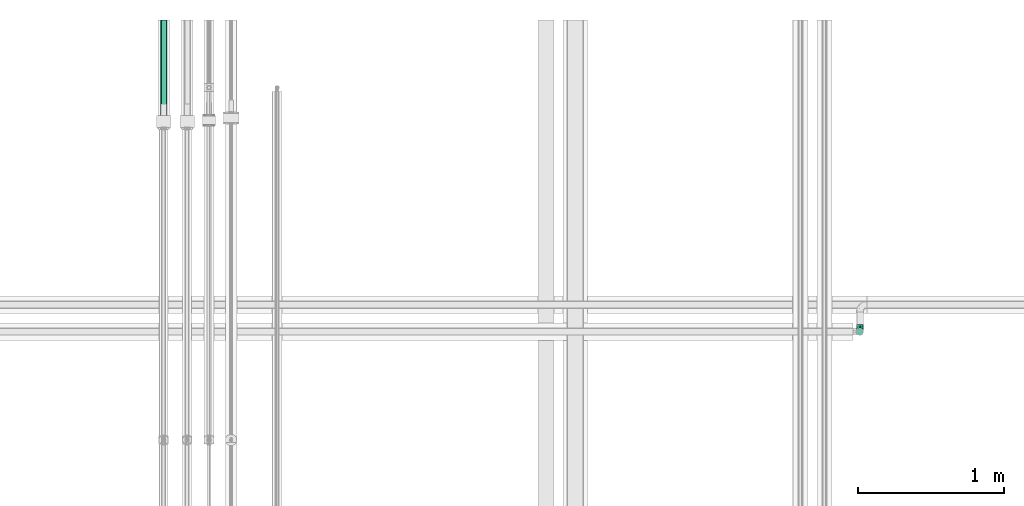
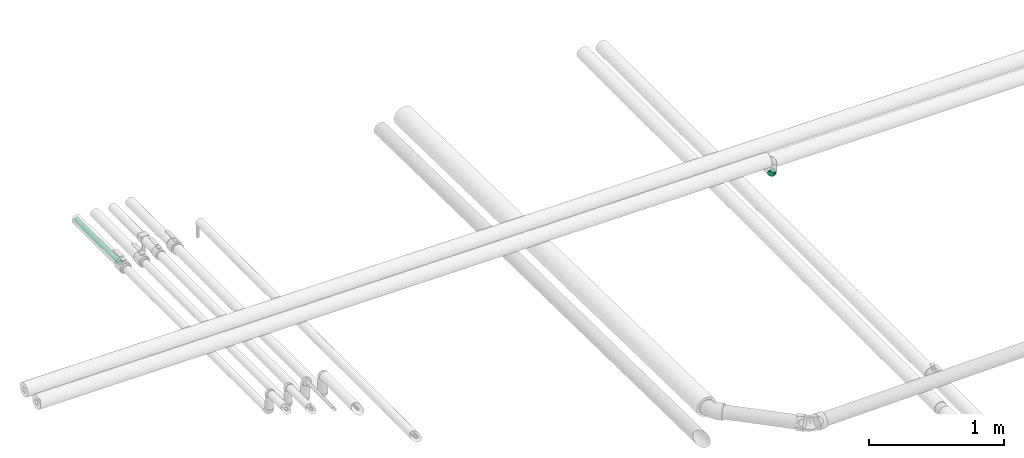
# One storey, part 73 of 83: 1 flow fitting, 1 flow segment.
"""IFC2X3 building model written with IfcOpenShell, lengths in millimetres."""

from ifc_helpers import new_model, entity, si_unit, converted_unit, derived_unit, direction, frame, origin_with_axes, place, context, subcontext, project, spatial, open_shell, faceted_brep, surface_model, source, transform, mapped, type_object, element, save


model = new_model("IFC2X3")

# Units and contexts
model_context = context("Model", 3, precision=0.01, world=frame((0.0, 4.29681676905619e-09, 0.0)), true_north=direction((4.01073788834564e-13, 1.0)))
plan_context = context("Plan", 3, precision=0.01, world=frame((0.0, 4.29681676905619e-09, 0.0)), true_north=direction((4.01073788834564e-13, 1.0)))
body_context = subcontext(model_context, "Body", "Model", "MODEL_VIEW")
ifc_project = project(units=[converted_unit("PLANEANGLEUNIT", "DEGREE", entity("IfcPositiveLengthMeasure", 0.0174532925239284), si_unit("PLANEANGLEUNIT", "RADIAN"), dimensions=[0, 0, 0, 0, 0, 0, 0]), si_unit("AREAUNIT", "SQUARE_METRE"), si_unit("LENGTHUNIT", "METRE", prefix="MILLI"), si_unit("MASSUNIT", "GRAM", prefix="KILO"), si_unit("POWERUNIT", "WATT"), si_unit("PRESSUREUNIT", "PASCAL"), si_unit("FORCEUNIT", "NEWTON", prefix="KILO"), si_unit("ELECTRICVOLTAGEUNIT", "VOLT"), si_unit("ELECTRICCURRENTUNIT", "AMPERE"), si_unit("THERMODYNAMICTEMPERATUREUNIT", "DEGREE_CELSIUS"), si_unit("TIMEUNIT", "SECOND"), si_unit("VOLUMEUNIT", "CUBIC_METRE"), derived_unit("LINEARVELOCITYUNIT", [(si_unit("LENGTHUNIT", "METRE"), 1), (si_unit("TIMEUNIT", "SECOND"), -1)]), derived_unit("VOLUMETRICFLOWRATEUNIT", [(si_unit("VOLUMEUNIT", "CUBIC_METRE"), 1), (si_unit("TIMEUNIT", "SECOND"), -1)]), derived_unit("THERMALTRANSMITTANCEUNIT", [(si_unit("POWERUNIT", "WATT"), 1), (si_unit("THERMODYNAMICTEMPERATUREUNIT", "KELVIN"), -1), (si_unit("AREAUNIT", "SQUARE_METRE"), -1)]), derived_unit("SOUNDPRESSUREUNIT", [(si_unit("PRESSUREUNIT", "PASCAL"), 1)])], contexts=[model_context, plan_context])

# Site, building, storey
site_placement = place(None, frame((0.0, -4.29681676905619e-09, 0.0), z_axis=(0.0, 0.0, 1.0), x_axis=(1.0, 0.0, 0.0)))
site = spatial("IfcSite", under=ifc_project, at=site_placement, Name="ENGM", CompositionType="ELEMENT")
building_placement = place(site_placement, frame((0.0, 4.29681676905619e-09, 0.0), z_axis=(0.0, 0.0, 1.0), x_axis=(1.0, 0.0, 0.0)))
building = spatial("IfcBuilding", under=site, at=building_placement, Name="TI", CompositionType="ELEMENT")
storey_placement = place(building_placement, frame((0.0, 0.0, 204000.0), z_axis=(0.0, 0.0, 1.0), x_axis=(1.0, 0.0, 0.0)))
storey = spatial("IfcBuildingStorey", under=building, at=storey_placement, Name="Nivå D", CompositionType="ELEMENT", Elevation=204000.0)

# Flow fitting
pipe_fitting_type = type_object("IfcPipeFittingType", Name="magi_pipe_fe_elbow_short_001", PredefinedType="BEND")
shared_shape = source(origin_with_axes(), body_context, "Body", "SurfaceModel", [
    surface_model("IfcShellBasedSurfaceModel", [(-48.3864, 6.26342, -23.37541), (-48.3864, 0.0, -24.2), (-48.3864, 17.11198, -17.11198), (-48.3864, 12.1, -20.95781), (-48.3864, 20.95781, -12.1), (-48.3864, 24.2, 0.0), (-48.3864, -12.1, -20.95781), (-48.3864, -23.37541, -6.26342), (-48.3864, 12.1, 20.95781), (-48.3864, -17.11198, -17.11198), (-48.3864, -20.95781, -12.1), (-48.3864, -6.26342, -23.37541), (-48.3864, -24.2, 0.0), (-48.3864, -23.37541, 6.26342), (-48.3864, 23.37541, -6.26342), (-48.3864, 23.37541, 6.26342), (-48.3864, 20.95781, 12.1), (-48.3864, 6.26342, 23.37541), (-48.3864, 17.11198, 17.11198), (-48.3864, -12.1, 20.95781), (-48.3864, -20.95781, 12.1), (-48.3864, -17.11198, 17.11198), (-48.3864, -6.26342, 23.37541), (-48.3864, 0.0, 24.2), (-17.09838, 48.39121, -17.11198), (0.0136, 48.38639, -24.2), (-6.24982, 48.38815, -23.37541), (-12.0864, 48.38979, -20.95781), (-20.94421, 48.39229, -12.1), (-23.3618, 48.39296, -6.26342), (23.38901, 48.37982, -6.26342), (-6.24982, 48.38815, 23.37541), (12.1136, 48.38299, -20.95781), (17.12559, 48.38158, -17.11198), (6.27703, 48.38463, -23.37541), (20.97142, 48.3805, -12.1), (23.38901, 48.37982, 6.26342), (24.2136, 48.37959, 0.0), (-23.3618, 48.39296, 6.26342), (-17.09838, 48.39121, 17.11198), (-20.94421, 48.39229, 12.1), (-12.0864, 48.38979, 20.95781), (6.27703, 48.38463, 23.37541), (17.12559, 48.38158, 17.11198), (20.97142, 48.3805, 12.1), (12.1136, 48.38299, 20.95781), (0.0136, 48.38639, 24.2), (-24.18639, 48.39319, 0.0), (-35.48931, -18.80053, 13.58535), (-31.76512, -13.9615, 18.03295), (-34.49734, -21.4378, 0.0), (-21.37755, -15.41076, 12.21441), (-32.14898, -21.12185, 7.54772), (21.13089, 32.14304, 7.54772), (17.08095, 18.93766, 6.2035), (18.6814, 20.60304, 0.0), (-23.64482, 38.6178, 10.51794), (-20.20526, 37.66957, 15.89832), (-35.55632, -9.15088, 21.77266), (-36.95858, -3.20588, 23.78621), (-33.87598, 3.70948, 24.15872), (-8.83298, -10.80939, 0.0), (-18.94247, -17.07562, 6.2035), (-20.60829, -18.67561, 0.0), (-18.68797, -5.87505, 20.10535), (-24.08392, -0.21822, 23.45617), (-2.07019, -4.08903, 10.90829), (-0.40152, 0.49367, 14.45935), (-8.21836, -5.79706, 14.91218), (-37.81785, 20.17351, 15.88138), (-8.40375, 23.79209, 24.15643), (-17.91699, 17.92203, 23.61167), (-14.4036, 10.57203, 24.0756), (-41.85789, 14.65503, 19.71848), (-9.02172, 41.73423, 22.66749), (-3.30661, 36.18823, 24.14053), (-38.62319, 23.65176, 10.51632), (-38.25149, 25.77422, 5.31987), (-30.03656, 30.04501, 9.04584), (-37.29138, 9.49127, 22.86027), (-6.30981, 16.19948, 23.76186), (-12.01521, 4.43891, 22.5988), (-2.46302, 13.06901, 22.23953), (-4.31651, 4.31772, 19.78666), (13.97043, 31.76119, 18.03295), (15.41676, 21.37322, 12.21441), (18.81051, 35.48402, 13.58535), (-25.71923, 16.41719, 22.38334), (-26.58239, 10.3644, 23.76688), (3.21627, 36.95768, 23.78621), (9.16088, 35.55374, 21.77266), (5.8803, 18.68631, 20.10535), (21.4475, 34.49131, 0.0), (-23.73775, 5.92943, 24.18973), (-22.39538, 25.54978, 19.8847), (-33.31478, 16.42636, 20.37842), (-25.46237, 39.0342, 5.19172), (-30.32016, 31.73653, 4.2585), (11.05132, 19.58501, 16.55211), (-27.43085, 36.29607, 0.0), (-10.45626, 32.7842, 23.04689), (-13.80177, 25.0461, 23.26303), (-17.53579, 31.27121, 20.3392), (-19.27198, 23.42382, 22.01886), (-14.77312, 40.57073, 19.81898), (-19.58811, -11.04581, 16.55211), (-25.08565, 32.07607, 13.6979), (-25.50111, 27.02126, 17.14143), (-31.06957, 26.00254, 13.49357), (0.22499, 24.08386, 23.45617), (5.51823, 8.39396, 15.3263), (-11.47276, -10.80193, 11.36116), (1.44439, -3.14564, 6.55896), (7.36233, 4.30632, 8.44507), (7.49638, 2.48458, 3.62856), (12.47059, 10.07541, 5.70046), (12.17179, 12.55163, 10.13976), (-36.28836, 27.44105, 0.0), (-6.50662, -9.62078, 7.02985), (2.94234, -2.94317, 0.0), (10.81187, 8.82994, 0.0), (-19.58811, -11.04581, -16.55211), (-31.76512, -13.9615, -18.03295), (-18.68797, -5.87505, -20.10535), (-21.37755, -15.41076, -12.21441), (-37.66389, 20.21585, -15.89832), (-40.56658, 14.78453, -19.81898), (-39.02704, 25.47335, -5.19172), (-32.14898, -21.12185, -7.54772), (-30.03657, 30.04501, -9.04584), (-38.61115, 23.65568, -10.51793), (-18.94247, -17.07562, -6.2035), (-23.4184, 19.27857, -22.01886), (-25.04222, 13.80881, -23.26303), (-31.26628, 17.54458, -20.3392), (-14.64326, 41.862, -19.71848), (-20.16287, 37.82352, -15.88138), (9.16088, 35.55374, -21.77266), (5.8803, 18.68631, -20.10535), (0.22499, 24.08386, -23.45617), (-41.73169, 9.03346, -22.66749), (-35.48931, -18.80053, -13.58535), (-35.55632, -9.15088, -21.77266), (-16.40996, 25.72385, -22.38335), (-9.48078, 37.29405, -22.86027), (-10.35692, 26.5853, -23.76688), (-36.95858, -3.20588, -23.78621), (-23.78973, 8.41044, -24.15643), (-17.91699, 17.92203, -23.61167), (-10.56798, 14.40657, -24.0756), (-36.1873, 3.31679, -24.14053), (-25.76347, 38.25874, -5.31987), (-23.6409, 38.62984, -10.51632), (-32.78126, 10.46547, -23.04689), (-31.728, 30.32908, -4.2585), (-5.92275, 23.73941, -24.18973), (-25.54349, 22.40257, -19.8847), (-16.41699, 33.3194, -20.37843), (3.21627, 36.95768, -23.78621), (-3.69996, 33.87702, -24.15872), (18.81051, 35.48402, -13.58535), (13.97043, 31.76119, -18.03295), (7.49639, 2.48458, -3.62856), (12.47059, 10.07541, -5.70046), (-16.1977, 6.31437, -23.76186), (-4.43553, 12.01646, -22.5988), (-13.06831, 2.4667, -22.23953), (1.44439, -3.14564, -6.55896), (-6.50662, -9.62078, -7.02985), (-2.07019, -4.08904, -10.90829), (15.41677, 21.37322, -12.21441), (21.13089, 32.14304, -7.54772), (17.08095, 18.93766, -6.2035), (-32.06902, 25.09466, -13.6979), (11.05132, 19.58501, -16.55211), (12.17179, 12.55163, -10.13976), (5.51823, 8.39396, -15.3263), (-27.01409, 25.50871, -17.14143), (-25.9938, 31.07688, -13.49357), (-24.08392, -0.21822, -23.45617), (-4.31651, 4.31772, -19.78665), (-8.21836, -5.79706, -14.91218), (-11.47276, -10.80193, -11.36116), (-0.40152, 0.49367, -14.45935), (7.36233, 4.30632, -8.44507)], [open_shell([[[0, 1, 2]], [[3, 0, 2]], [[4, 2, 5]], [[6, 2, 1]], [[2, 7, 8]], [[9, 10, 6]], [[1, 11, 6]], [[10, 7, 6]], [[6, 7, 2]], [[12, 13, 7]], [[4, 5, 14]], [[8, 15, 2]], [[16, 15, 8]], [[8, 7, 17]], [[18, 16, 8]], [[7, 19, 17]], [[20, 21, 13]], [[21, 7, 13]], [[22, 23, 19]], [[21, 19, 7]], [[19, 23, 17]], [[15, 5, 2]], [[24, 25, 26]], [[24, 26, 27]], [[24, 28, 29]], [[25, 24, 30]], [[31, 30, 24]], [[32, 30, 33]], [[30, 32, 34]], [[33, 30, 35]], [[34, 25, 30]], [[30, 36, 37]], [[38, 24, 29]], [[24, 38, 31]], [[39, 38, 40]], [[41, 31, 38]], [[41, 38, 39]], [[42, 30, 31]], [[36, 43, 44]], [[36, 30, 43]], [[43, 30, 45]], [[42, 45, 30]], [[31, 46, 42]], [[38, 29, 47]], [[21, 48, 49]], [[13, 12, 50]], [[51, 48, 52]], [[53, 54, 55]], [[48, 21, 20]], [[13, 52, 20]], [[40, 56, 57]], [[49, 19, 21]], [[49, 58, 19]], [[23, 59, 60]], [[61, 62, 63]], [[58, 64, 65]], [[66, 67, 68]], [[16, 18, 69]], [[70, 71, 72]], [[8, 73, 18]], [[22, 59, 23]], [[31, 74, 75]], [[23, 60, 17]], [[16, 69, 76]], [[18, 73, 69]], [[5, 15, 77]], [[15, 16, 76]], [[77, 76, 78]], [[17, 79, 8]], [[80, 81, 82]], [[68, 83, 64]], [[84, 43, 45]], [[85, 86, 84]], [[87, 79, 88]], [[19, 58, 22]], [[46, 89, 42]], [[53, 36, 44]], [[46, 31, 75]], [[84, 90, 91]], [[44, 86, 53]], [[92, 36, 53]], [[86, 44, 43]], [[90, 45, 42]], [[53, 55, 92]], [[88, 93, 72]], [[54, 53, 85]], [[87, 94, 95]], [[78, 96, 97]], [[98, 84, 91]], [[99, 96, 47]], [[79, 17, 60]], [[96, 78, 56]], [[62, 52, 63]], [[57, 39, 40]], [[100, 70, 75]], [[101, 102, 103]], [[13, 50, 52]], [[104, 41, 39]], [[74, 31, 41]], [[57, 102, 104]], [[105, 64, 49]], [[90, 84, 45]], [[40, 38, 56]], [[56, 106, 57]], [[102, 57, 107]], [[95, 107, 69]], [[76, 108, 78]], [[100, 101, 70]], [[89, 75, 109]], [[64, 58, 49]], [[63, 52, 50]], [[59, 58, 65]], [[105, 49, 51]], [[64, 83, 81]], [[89, 90, 42]], [[37, 36, 92]], [[109, 82, 91]], [[109, 91, 90]], [[91, 83, 110]], [[111, 68, 105]], [[66, 68, 111]], [[62, 51, 52]], [[66, 112, 113]], [[114, 115, 113]], [[98, 85, 84]], [[52, 48, 20]], [[49, 48, 51]], [[84, 86, 43]], [[53, 86, 85]], [[88, 79, 60]], [[73, 79, 95]], [[96, 56, 38]], [[78, 108, 106]], [[87, 103, 94]], [[100, 74, 104]], [[108, 69, 107]], [[78, 97, 77]], [[88, 72, 71]], [[109, 75, 70]], [[81, 72, 65]], [[70, 72, 80]], [[75, 89, 46]], [[90, 89, 109]], [[58, 59, 22]], [[60, 59, 65]], [[67, 83, 68]], [[110, 113, 116]], [[88, 60, 93]], [[87, 88, 71]], [[103, 87, 71]], [[79, 87, 95]], [[101, 103, 71]], [[94, 103, 102]], [[47, 96, 38]], [[96, 99, 97]], [[99, 117, 97]], [[97, 117, 77]], [[5, 77, 117]], [[15, 76, 77]], [[60, 65, 93]], [[65, 72, 93]], [[70, 101, 71]], [[102, 101, 100]], [[69, 108, 76]], [[106, 108, 107]], [[57, 106, 107]], [[78, 106, 56]], [[57, 104, 39]], [[100, 104, 102]], [[102, 107, 94]], [[95, 94, 107]], [[64, 81, 65]], [[82, 81, 83]], [[91, 82, 83]], [[80, 82, 109]], [[70, 80, 109]], [[81, 80, 72]], [[79, 73, 8]], [[69, 73, 95]], [[104, 74, 41]], [[75, 74, 100]], [[62, 61, 118]], [[111, 62, 118]], [[113, 115, 116]], [[119, 118, 61]], [[111, 105, 51]], [[113, 112, 114]], [[120, 55, 54]], [[68, 64, 105]], [[91, 110, 98]], [[116, 98, 110]], [[62, 111, 51]], [[66, 111, 118]], [[112, 66, 118]], [[67, 113, 110]], [[118, 119, 112]], [[114, 112, 119]], [[119, 120, 114]], [[115, 120, 54]], [[120, 115, 114]], [[116, 54, 85]], [[54, 116, 115]], [[116, 85, 98]], [[113, 67, 66]], [[83, 67, 110]], [[121, 122, 123]], [[122, 121, 124]], [[4, 125, 2]], [[2, 126, 3]], [[117, 127, 5]], [[50, 7, 128]], [[127, 129, 130]], [[128, 131, 63]], [[132, 133, 134]], [[24, 135, 136]], [[137, 138, 139]], [[3, 140, 0]], [[128, 10, 141]], [[142, 6, 11]], [[128, 63, 50]], [[4, 14, 130]], [[10, 9, 141]], [[143, 144, 145]], [[146, 11, 1]], [[147, 148, 149]], [[10, 128, 7]], [[124, 141, 122]], [[150, 1, 0]], [[151, 152, 129]], [[125, 134, 126]], [[153, 147, 150]], [[127, 154, 129]], [[145, 155, 149]], [[47, 29, 151]], [[143, 156, 157]], [[152, 29, 28]], [[25, 158, 159]], [[122, 9, 6]], [[24, 27, 135]], [[144, 27, 26]], [[33, 160, 161]], [[25, 34, 158]], [[120, 162, 163]], [[130, 125, 4]], [[24, 136, 28]], [[0, 140, 150]], [[32, 161, 137]], [[142, 122, 6]], [[25, 159, 26]], [[164, 165, 166]], [[167, 168, 169]], [[35, 160, 33]], [[161, 32, 33]], [[170, 160, 171]], [[131, 128, 124]], [[37, 92, 30]], [[30, 92, 171]], [[172, 171, 55]], [[30, 171, 35]], [[144, 26, 159]], [[130, 173, 125]], [[174, 175, 176]], [[136, 152, 28]], [[32, 137, 34]], [[122, 142, 123]], [[134, 125, 177]], [[157, 177, 136]], [[152, 178, 129]], [[153, 133, 147]], [[146, 150, 179]], [[146, 142, 11]], [[12, 7, 50]], [[179, 166, 123]], [[179, 123, 142]], [[123, 180, 181]], [[138, 137, 161]], [[55, 171, 92]], [[158, 137, 139]], [[174, 161, 170]], [[138, 180, 165]], [[180, 138, 176]], [[124, 121, 182]], [[176, 183, 180]], [[61, 131, 168]], [[169, 168, 182]], [[172, 170, 171]], [[122, 141, 9]], [[128, 141, 124]], [[171, 160, 35]], [[161, 160, 170]], [[145, 144, 159]], [[135, 144, 157]], [[127, 130, 14]], [[129, 178, 173]], [[143, 132, 156]], [[153, 140, 126]], [[178, 136, 177]], [[129, 154, 151]], [[145, 149, 148]], [[179, 150, 147]], [[165, 149, 139]], [[147, 149, 164]], [[150, 146, 1]], [[142, 146, 179]], [[137, 158, 34]], [[159, 158, 139]], [[174, 138, 161]], [[184, 169, 183]], [[145, 159, 155]], [[143, 145, 148]], [[132, 143, 148]], [[144, 143, 157]], [[133, 132, 148]], [[156, 132, 134]], [[5, 127, 14]], [[127, 117, 154]], [[117, 99, 154]], [[154, 99, 151]], [[47, 151, 99]], [[29, 152, 151]], [[159, 139, 155]], [[139, 149, 155]], [[147, 133, 148]], [[134, 133, 153]], [[136, 178, 152]], [[173, 178, 177]], [[125, 173, 177]], [[129, 173, 130]], [[125, 126, 2]], [[153, 126, 134]], [[134, 177, 156]], [[157, 156, 177]], [[138, 165, 139]], [[166, 165, 180]], [[123, 166, 180]], [[164, 166, 179]], [[147, 164, 179]], [[165, 164, 149]], [[144, 135, 27]], [[136, 135, 157]], [[126, 140, 3]], [[150, 140, 153]], [[182, 131, 124]], [[168, 119, 61]], [[119, 167, 162]], [[63, 131, 61]], [[172, 163, 175]], [[172, 55, 120]], [[123, 181, 121]], [[182, 121, 181]], [[175, 174, 170]], [[176, 138, 174]], [[169, 182, 181]], [[131, 182, 168]], [[183, 169, 181]], [[167, 169, 184]], [[162, 167, 184]], [[119, 168, 167]], [[163, 162, 184]], [[120, 119, 162]], [[175, 163, 184]], [[120, 163, 172]], [[176, 175, 184]], [[172, 175, 170]], [[180, 183, 181]], [[184, 183, 176]]])]),
])
flow_fitting_placement = place(storey_placement, frame((604326.13283, 697347.0, 6072.10000000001), z_axis=(-1.0, 0.0, 0.0), x_axis=(0.0, -0.999999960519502, 0.00028099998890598)))
element("IfcFlowFitting", 1, at=flow_fitting_placement, inside=storey, type_object=pipe_fitting_type, Name="magi_pipe_fe_elbow_short_001", context=body_context, shape_type="MappedRepresentation", body=[
    mapped(shared_shape, transform((0.0, 0.0, 0.0), scale=1.0)),
])

# Flow segment
pipe_segment_type = type_object("IfcPipeSegmentType", Name="Stålrør normaltykke", PredefinedType="RIGIDSEGMENT")
flow_segment_placement = place(storey_placement, frame((599571.9743, 699780.77958, 6052.20000000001), z_axis=(0.0, 0.0, 1.0), x_axis=(0.0, -1.0, 0.0)))
element("IfcFlowSegment", 2, at=flow_segment_placement, inside=storey, type_object=pipe_segment_type, Name="Stålrør normaltykke", context=body_context, shape_type="Brep", body=[
    faceted_brep([(305.279580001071, 18.9083088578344, -3.33404501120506), (305.279580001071, 19.2, 0.0), (957.8, 19.2, 0.0), (957.8, 18.9083088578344, -3.33404501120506), (305.279580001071, 18.0420983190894, -6.56678675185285), (957.8, 18.0420983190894, -6.56678675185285), (305.279580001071, 16.6276877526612, -9.60000000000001), (957.8, 16.6276877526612, -9.60000000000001), (305.279580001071, 14.7080533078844, -12.3415221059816), (957.8, 14.7080533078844, -12.3415221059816), (305.279580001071, 12.3415221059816, -14.7080533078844), (957.8, 12.3415221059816, -14.7080533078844), (305.279580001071, 9.6, -16.6276877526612), (957.8, 9.6, -16.6276877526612), (305.279580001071, 6.56678675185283, -18.0420983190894), (957.8, 6.56678675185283, -18.0420983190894), (305.279580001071, 3.33404501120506, -18.9083088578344), (957.8, 3.33404501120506, -18.9083088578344), (305.279580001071, -3.52698278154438e-15, -19.2), (957.8, -3.52698278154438e-15, -19.2), (305.279580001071, -3.33404501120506, -18.9083088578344), (957.8, -3.33404501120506, -18.9083088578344), (305.279580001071, -6.56678675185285, -18.0420983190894), (957.8, -6.56678675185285, -18.0420983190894), (305.279580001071, -9.60000000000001, -16.6276877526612), (957.8, -9.60000000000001, -16.6276877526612), (305.279580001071, -12.3415221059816, -14.7080533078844), (957.8, -12.3415221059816, -14.7080533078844), (305.279580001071, -14.7080533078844, -12.3415221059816), (957.8, -14.7080533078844, -12.3415221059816), (305.279580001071, -16.6276877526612, -9.59999999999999), (957.8, -16.6276877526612, -9.59999999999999), (305.279580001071, -18.0420983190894, -6.56678675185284), (957.8, -18.0420983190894, -6.56678675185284), (305.279580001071, -18.9083088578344, -3.33404501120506), (957.8, -18.9083088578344, -3.33404501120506), (305.279580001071, -19.2, 2.35132185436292e-15), (957.8, -19.2, 2.35132185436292e-15), (305.279580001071, -18.9083088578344, 3.33404501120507), (957.8, -18.9083088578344, 3.33404501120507), (305.279580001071, -18.0420983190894, 6.56678675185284), (957.8, -18.0420983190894, 6.56678675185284), (305.279580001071, -16.6276877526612, 9.6), (957.8, -16.6276877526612, 9.6), (305.279580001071, -14.7080533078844, 12.3415221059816), (957.8, -14.7080533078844, 12.3415221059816), (305.279580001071, -12.3415221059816, 14.7080533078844), (957.8, -12.3415221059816, 14.7080533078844), (305.279580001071, -9.6, 16.6276877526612), (957.8, -9.6, 16.6276877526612), (305.279580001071, -6.56678675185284, 18.0420983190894), (957.8, -6.56678675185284, 18.0420983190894), (305.279580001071, -3.33404501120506, 18.9083088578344), (957.8, -3.33404501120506, 18.9083088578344), (305.279580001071, 1.17566092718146e-15, 19.2), (957.8, 1.17566092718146e-15, 19.2), (305.279580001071, 3.33404501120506, 18.9083088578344), (957.8, 3.33404501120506, 18.9083088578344), (305.279580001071, 6.56678675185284, 18.0420983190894), (957.8, 6.56678675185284, 18.0420983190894), (305.279580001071, 9.6, 16.6276877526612), (957.8, 9.6, 16.6276877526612), (305.279580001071, 12.3415221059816, 14.7080533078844), (957.8, 12.3415221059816, 14.7080533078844), (305.279580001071, 14.7080533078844, 12.3415221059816), (957.8, 14.7080533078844, 12.3415221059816), (305.279580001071, 16.6276877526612, 9.6), (957.8, 16.6276877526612, 9.6), (305.279580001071, 18.0420983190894, 6.56678675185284), (957.8, 18.0420983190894, 6.56678675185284), (305.279580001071, 18.9083088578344, 3.33404501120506), (957.8, 18.9083088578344, 3.33404501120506), (305.279580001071, 21.2, 0.0), (305.279580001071, 20.8779243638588, -3.68134136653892), (957.8, 20.8779243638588, -3.68134136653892), (957.8, 21.2, 0.0), (305.279580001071, 20.8779243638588, 3.68134136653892), (957.8, 20.8779243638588, 3.68134136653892), (305.279580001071, 19.9214835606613, 7.25082703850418), (957.8, 19.9214835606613, 7.25082703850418), (305.279580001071, 18.3597385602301, 10.6), (957.8, 18.3597385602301, 10.6), (305.279580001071, 16.2401421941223, 13.6270973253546), (957.8, 16.2401421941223, 13.6270973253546), (305.279580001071, 13.6270973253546, 16.2401421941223), (957.8, 13.6270973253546, 16.2401421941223), (305.279580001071, 10.6, 18.3597385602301), (957.8, 10.6, 18.3597385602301), (305.279580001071, 7.25082703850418, 19.9214835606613), (957.8, 7.25082703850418, 19.9214835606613), (305.279580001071, 3.68134136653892, 20.8779243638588), (957.8, 3.68134136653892, 20.8779243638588), (305.279580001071, 1.29812560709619e-15, 21.2), (957.8, 1.29812560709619e-15, 21.2), (305.279580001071, -3.68134136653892, 20.8779243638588), (957.8, -3.68134136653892, 20.8779243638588), (305.279580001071, -7.25082703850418, 19.9214835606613), (957.8, -7.25082703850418, 19.9214835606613), (305.279580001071, -10.6, 18.3597385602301), (957.8, -10.6, 18.3597385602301), (305.279580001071, -13.6270973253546, 16.2401421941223), (957.8, -13.6270973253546, 16.2401421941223), (305.279580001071, -16.2401421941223, 13.6270973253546), (957.8, -16.2401421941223, 13.6270973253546), (305.279580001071, -18.3597385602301, 10.6), (957.8, -18.3597385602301, 10.6), (305.279580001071, -19.9214835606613, 7.25082703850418), (957.8, -19.9214835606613, 7.25082703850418), (305.279580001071, -20.8779243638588, 3.68134136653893), (957.8, -20.8779243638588, 3.68134136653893), (305.279580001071, -21.2, 2.59625121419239e-15), (957.8, -21.2, 2.59625121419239e-15), (305.279580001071, -20.8779243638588, -3.68134136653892), (957.8, -20.8779243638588, -3.68134136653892), (305.279580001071, -19.9214835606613, -7.25082703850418), (957.8, -19.9214835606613, -7.25082703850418), (305.279580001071, -18.3597385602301, -10.6), (957.8, -18.3597385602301, -10.6), (305.279580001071, -16.2401421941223, -13.6270973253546), (957.8, -16.2401421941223, -13.6270973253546), (305.279580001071, -13.6270973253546, -16.2401421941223), (957.8, -13.6270973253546, -16.2401421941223), (305.279580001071, -10.6, -18.3597385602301), (957.8, -10.6, -18.3597385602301), (305.279580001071, -7.25082703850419, -19.9214835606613), (957.8, -7.25082703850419, -19.9214835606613), (305.279580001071, -3.68134136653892, -20.8779243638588), (957.8, -3.68134136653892, -20.8779243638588), (305.279580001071, -3.89437682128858e-15, -21.2), (957.8, -3.89437682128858e-15, -21.2), (305.279580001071, 3.68134136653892, -20.8779243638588), (957.8, 3.68134136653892, -20.8779243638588), (305.279580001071, 7.25082703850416, -19.9214835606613), (957.8, 7.25082703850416, -19.9214835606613), (305.279580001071, 10.6, -18.3597385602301), (957.8, 10.6, -18.3597385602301), (305.279580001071, 13.6270973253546, -16.2401421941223), (957.8, 13.6270973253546, -16.2401421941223), (305.279580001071, 16.2401421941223, -13.6270973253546), (957.8, 16.2401421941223, -13.6270973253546), (305.279580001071, 18.3597385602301, -10.6), (957.8, 18.3597385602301, -10.6), (305.279580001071, 19.9214835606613, -7.25082703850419), (957.8, 19.9214835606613, -7.25082703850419)], [[[0, 1, 2, 3]], [[4, 0, 3, 5]], [[6, 4, 5, 7]], [[8, 6, 7, 9]], [[10, 8, 9, 11]], [[12, 10, 11, 13]], [[14, 12, 13, 15]], [[16, 14, 15, 17]], [[18, 16, 17, 19]], [[20, 18, 19, 21]], [[22, 20, 21, 23]], [[24, 22, 23, 25]], [[26, 24, 25, 27]], [[28, 26, 27, 29]], [[30, 28, 29, 31]], [[32, 30, 31, 33]], [[34, 32, 33, 35]], [[36, 34, 35, 37]], [[38, 36, 37, 39]], [[40, 38, 39, 41]], [[42, 40, 41, 43]], [[44, 42, 43, 45]], [[46, 44, 45, 47]], [[48, 46, 47, 49]], [[50, 48, 49, 51]], [[52, 50, 51, 53]], [[54, 52, 53, 55]], [[56, 54, 55, 57]], [[58, 56, 57, 59]], [[60, 58, 59, 61]], [[62, 60, 61, 63]], [[64, 62, 63, 65]], [[66, 64, 65, 67]], [[68, 66, 67, 69]], [[70, 68, 69, 71]], [[1, 70, 71, 2]], [[72, 73, 74, 75]], [[76, 72, 75, 77]], [[78, 76, 77, 79]], [[80, 78, 79, 81]], [[82, 80, 81, 83]], [[84, 82, 83, 85]], [[86, 84, 85, 87]], [[88, 86, 87, 89]], [[90, 88, 89, 91]], [[92, 90, 91, 93]], [[94, 92, 93, 95]], [[96, 94, 95, 97]], [[98, 96, 97, 99]], [[100, 98, 99, 101]], [[102, 100, 101, 103]], [[104, 102, 103, 105]], [[106, 104, 105, 107]], [[108, 106, 107, 109]], [[110, 108, 109, 111]], [[112, 110, 111, 113]], [[114, 112, 113, 115]], [[116, 114, 115, 117]], [[118, 116, 117, 119]], [[120, 118, 119, 121]], [[122, 120, 121, 123]], [[124, 122, 123, 125]], [[126, 124, 125, 127]], [[128, 126, 127, 129]], [[130, 128, 129, 131]], [[132, 130, 131, 133]], [[134, 132, 133, 135]], [[136, 134, 135, 137]], [[138, 136, 137, 139]], [[140, 138, 139, 141]], [[142, 140, 141, 143]], [[73, 142, 143, 74]], [[75, 74, 143, 141, 139, 137, 135, 133, 131, 129, 127, 125, 123, 121, 119, 117, 115, 113, 111, 109, 107, 105, 103, 101, 99, 97, 95, 93, 91, 89, 87, 85, 83, 81, 79, 77], [2, 71, 69, 67, 65, 63, 61, 59, 57, 55, 53, 51, 49, 47, 45, 43, 41, 39, 37, 35, 33, 31, 29, 27, 25, 23, 21, 19, 17, 15, 13, 11, 9, 7, 5, 3]], [[76, 78, 80, 82, 84, 86, 88, 90, 92, 94, 96, 98, 100, 102, 104, 106, 108, 110, 112, 114, 116, 118, 120, 122, 124, 126, 128, 130, 132, 134, 136, 138, 140, 142, 73, 72], [4, 6, 8, 10, 12, 14, 16, 18, 20, 22, 24, 26, 28, 30, 32, 34, 36, 38, 40, 42, 44, 46, 48, 50, 52, 54, 56, 58, 60, 62, 64, 66, 68, 70, 1, 0]]], orient=[[False], [False], [False], [False], [False], [False], [False], [False], [False], [False], [False], [False], [False], [False], [False], [False], [False], [False], [False], [False], [False], [False], [False], [False], [False], [False], [False], [False], [False], [False], [False], [False], [False], [False], [False], [False], [False], [False], [False], [False], [False], [False], [False], [False], [False], [False], [False], [False], [False], [False], [False], [False], [False], [False], [False], [False], [False], [False], [False], [False], [False], [False], [False], [False], [False], [False], [False], [False], [False], [False], [False], [False], [False, False], [False, False]]),
])

save(model, "model.ifc")
